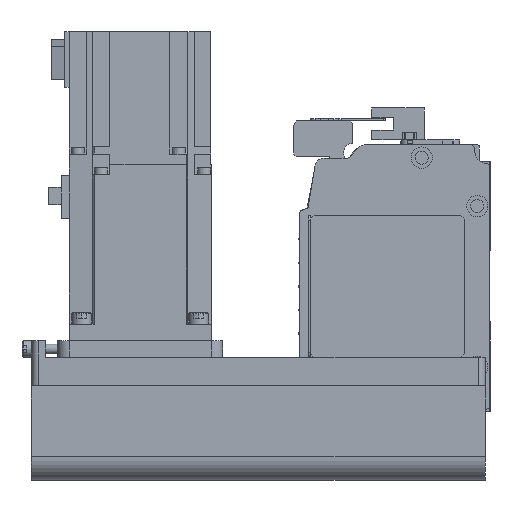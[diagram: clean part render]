
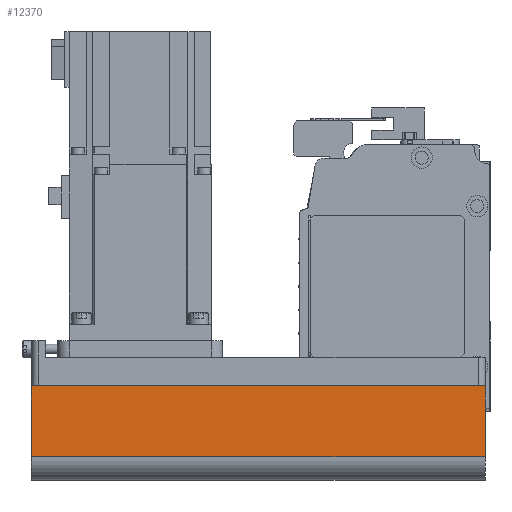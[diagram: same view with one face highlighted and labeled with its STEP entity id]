
A CAD part, left-side view. The second image highlights one B-rep face of the part: STEP entity #12370.
In plain terms, the highlighted planar face has unit normal (-1, 0, 0) as drawn and (0, -1, 0) by its records, which use the part's own axes.
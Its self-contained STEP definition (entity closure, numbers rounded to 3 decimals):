
#2229=ORIENTED_EDGE('',*,*,#5017,.F.);
#2230=ORIENTED_EDGE('',*,*,#4983,.F.);
#2231=ORIENTED_EDGE('',*,*,#5006,.T.);
#2232=ORIENTED_EDGE('',*,*,#5050,.T.);
#4983=EDGE_CURVE('',#6543,#6544,#7789,.T.);
#5006=EDGE_CURVE('',#6543,#6562,#7808,.T.);
#5017=EDGE_CURVE('',#6544,#6570,#7817,.T.);
#5050=EDGE_CURVE('',#6562,#6570,#7830,.T.);
#6543=VERTEX_POINT('',#19267);
#6544=VERTEX_POINT('',#19269);
#6562=VERTEX_POINT('',#19312);
#6570=VERTEX_POINT('',#19336);
#7789=LINE('',#19268,#9017);
#7808=LINE('',#19313,#9036);
#7817=LINE('',#19335,#9045);
#7830=LINE('',#19393,#9058);
#9017=VECTOR('',#15482,1000.);
#9036=VECTOR('',#15515,1000.);
#9045=VECTOR('',#15536,1000.);
#9058=VECTOR('',#15621,1000.);
#10114=EDGE_LOOP('',(#2229,#2230,#2231,#2232));
#11044=FACE_BOUND('',#10114,.T.);
#11805=PLANE('',#13335);
#12370=ADVANCED_FACE('',(#11044),#11805,.T.);
#13335=AXIS2_PLACEMENT_3D('',#19394,#15622,#15623);
#15482=DIRECTION('',(1.,0.,0.));
#15515=DIRECTION('',(0.,0.,-1.));
#15536=DIRECTION('',(0.,0.,-1.));
#15621=DIRECTION('',(1.,0.,0.));
#15622=DIRECTION('',(0.,-1.,0.));
#15623=DIRECTION('',(0.,0.,-1.));
#19267=CARTESIAN_POINT('',(-192.,-40.,-12.1));
#19268=CARTESIAN_POINT('',(-192.,-40.,-12.1));
#19269=CARTESIAN_POINT('',(0.,-40.,-12.1));
#19312=CARTESIAN_POINT('',(-192.,-40.,-42.));
#19313=CARTESIAN_POINT('',(-192.,-40.,-12.1));
#19335=CARTESIAN_POINT('',(0.,-40.,-12.1));
#19336=CARTESIAN_POINT('',(0.,-40.,-42.));
#19393=CARTESIAN_POINT('',(-192.,-40.,-42.));
#19394=CARTESIAN_POINT('',(-192.,-40.,-12.1));
